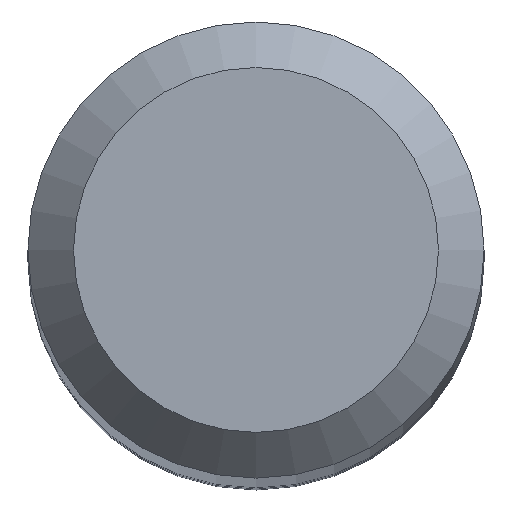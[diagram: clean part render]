
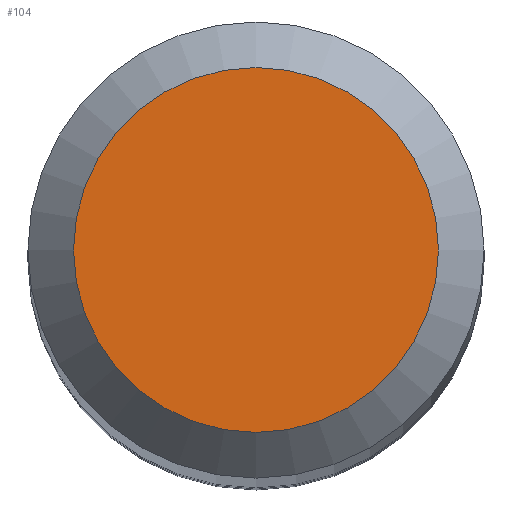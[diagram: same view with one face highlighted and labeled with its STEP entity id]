
A CAD part, top view. The second image highlights one B-rep face of the part: STEP entity #104.
In plain terms, the highlighted planar face has unit normal (0, 0, 1).
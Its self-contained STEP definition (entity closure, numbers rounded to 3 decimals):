
#88=CARTESIAN_POINT('',(3.2,0.0,120.0));
#89=DIRECTION('',(0.0,0.0,1.0));
#90=DIRECTION('',(1.0,0.0,0.0));
#91=AXIS2_PLACEMENT_3D('',#88,#89,#90);
#92=PLANE('',#91);
#93=CARTESIAN_POINT('',(-3.2,0.0,120.0));
#94=VERTEX_POINT('',#93);
#95=CARTESIAN_POINT('',(0.0,0.0,120.0));
#96=DIRECTION('',(0.0,0.0,-1.0));
#97=DIRECTION('',(-1.0,0.0,0.0));
#98=AXIS2_PLACEMENT_3D('',#95,#96,#97);
#99=CIRCLE('',#98,3.2);
#100=EDGE_CURVE('',#94,#94,#99,.T.);
#101=ORIENTED_EDGE('',*,*,#100,.F.);
#102=EDGE_LOOP('',(#101));
#103=FACE_OUTER_BOUND('',#102,.T.);
#104=ADVANCED_FACE('',(#103),#92,.T.);
